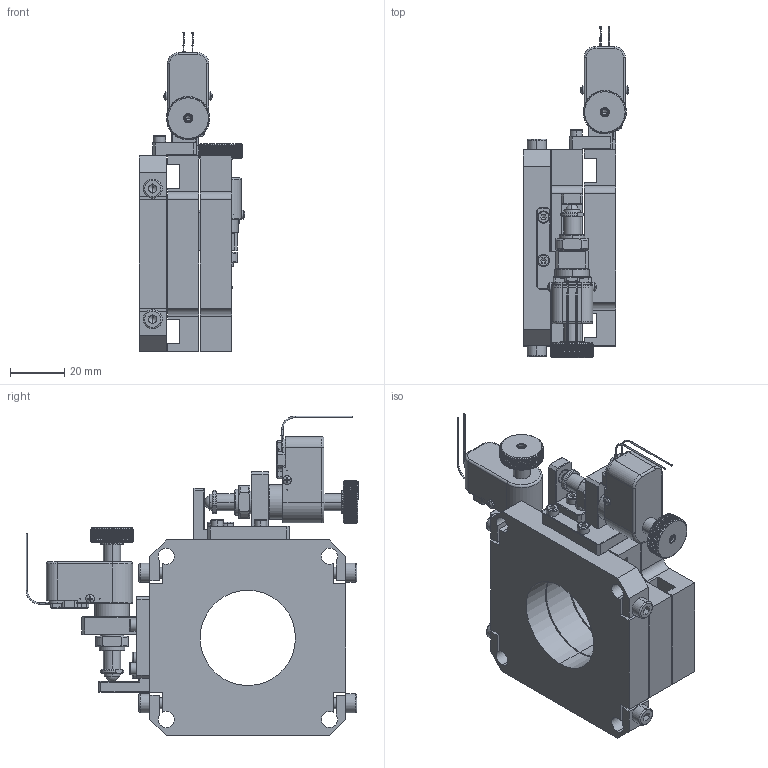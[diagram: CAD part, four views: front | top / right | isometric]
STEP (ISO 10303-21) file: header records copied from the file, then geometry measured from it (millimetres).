
FILE_DESCRIPTION (( 'STEP AP203' ), '1' );
FILE_NAME ('XY72N81K13-B2外形三维-24.02.23.STEP', '2024-02-23T02:03:52', ( 'Windows User' ), ( 'P R C' ), 'SwSTEP 2.0', 'SolidWorks 2016', '' );
FILE_SCHEMA (( 'CONFIG_CONTROL_DESIGN' ));
Products named in the file (1): XY72N81K13-B2外形三维-24.02.23
Bounding box: 38.87 x 122.02 x 117.52 mm (x, y, z)
Volume: 135253.4 mm3; surface area: 57277.3 mm2
Topology: 33 solids, 39 shells, 2214 faces, 5882 edges, 3726 vertices
Faces by surface type: plane 1088, cylinder 784, cone 262, torus 38, bspline 30, sphere 12
Entity records: 84625 total; most frequent: CARTESIAN_POINT 31093, ORIENTED_EDGE 11584, DIRECTION 10646, EDGE_CURVE 5792, AXIS2_PLACEMENT_3D 3779, VERTEX_POINT 3720, VECTOR 3088, LINE 3088
